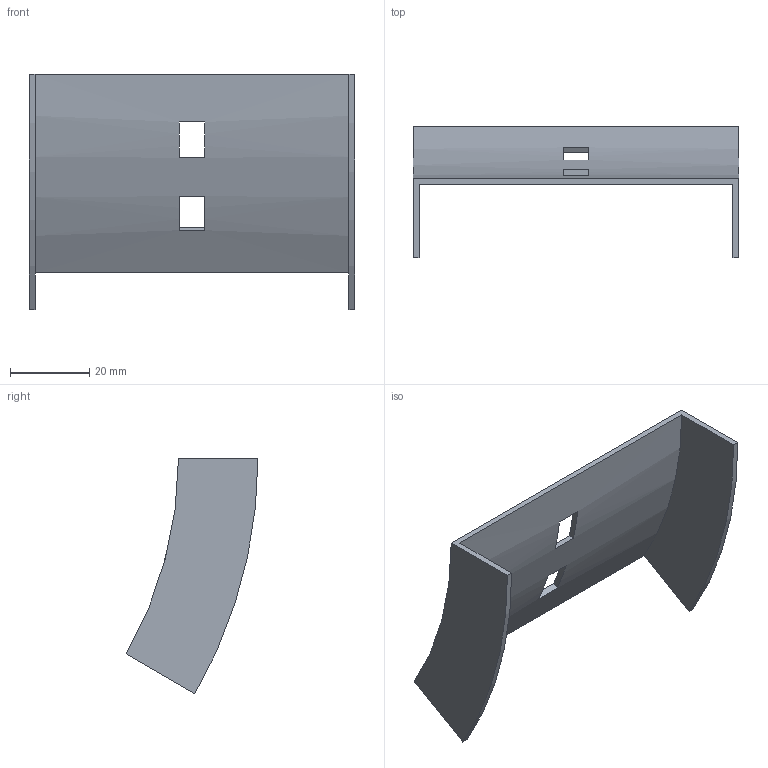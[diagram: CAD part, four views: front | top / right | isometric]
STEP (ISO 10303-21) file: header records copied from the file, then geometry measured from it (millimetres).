
FILE_DESCRIPTION (( 'STEP AP214' ), '1' );
FILE_NAME ('32N1R075.step', '2025-02-21T09:22:12', ( '' ), ( '' ), 'SwSTEP 2.0', 'SolidWorks 2023', '' );
FILE_SCHEMA (( 'AUTOMOTIVE_DESIGN' ));
Length unit declared in the file: millimetre
Products named in the file (1): 32N1R075
Bounding box: 82 x 33.2 x 59.25 mm (x, y, z)
Volume: 9388.7 mm3; surface area: 13154.6 mm2
Topology: 1 solids, 1 shells, 18 faces, 48 edges, 32 vertices
Faces by surface type: plane 14, cylinder 4
Entity records: 599 total; most frequent: DIRECTION 102, CARTESIAN_POINT 99, ORIENTED_EDGE 96, EDGE_CURVE 48, AXIS2_PLACEMENT_3D 35, VERTEX_POINT 32, VECTOR 32, LINE 32
